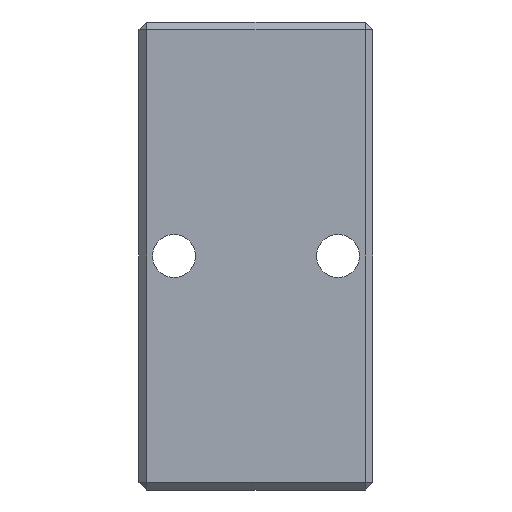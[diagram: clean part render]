
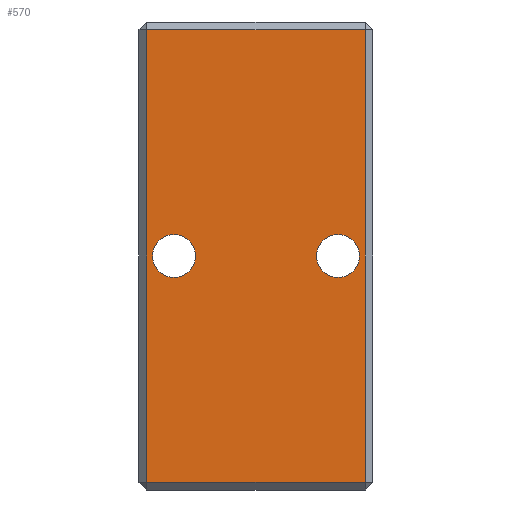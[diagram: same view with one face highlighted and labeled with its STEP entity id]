
A CAD part, left-side view. The second image highlights one B-rep face of the part: STEP entity #570.
In plain terms, the highlighted planar face has unit normal (-1, 0, 0).
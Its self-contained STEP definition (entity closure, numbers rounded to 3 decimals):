
#39=PLANE('',#640);
#47=FACE_BOUND('',#131,.T.);
#48=FACE_BOUND('',#132,.T.);
#89=FACE_OUTER_BOUND('',#130,.T.);
#130=EDGE_LOOP('',(#515,#516,#517,#518));
#131=EDGE_LOOP('',(#519));
#132=EDGE_LOOP('',(#520));
#163=LINE('',#974,#220);
#180=LINE('',#1004,#237);
#190=LINE('',#1024,#247);
#191=LINE('',#1026,#248);
#220=VECTOR('',#725,10.);
#237=VECTOR('',#756,10.);
#247=VECTOR('',#782,10.);
#248=VECTOR('',#785,10.);
#264=CIRCLE('',#641,2.75);
#265=CIRCLE('',#642,2.75);
#294=VERTEX_POINT('',#962);
#297=VERTEX_POINT('',#970);
#300=VERTEX_POINT('',#984);
#303=VERTEX_POINT('',#999);
#306=VERTEX_POINT('',#1031);
#307=VERTEX_POINT('',#1033);
#349=EDGE_CURVE('',#294,#297,#163,.T.);
#366=EDGE_CURVE('',#303,#300,#180,.T.);
#376=EDGE_CURVE('',#297,#303,#190,.T.);
#377=EDGE_CURVE('',#300,#294,#191,.T.);
#379=EDGE_CURVE('',#306,#306,#264,.T.);
#380=EDGE_CURVE('',#307,#307,#265,.T.);
#515=ORIENTED_EDGE('',*,*,#366,.F.);
#516=ORIENTED_EDGE('',*,*,#376,.F.);
#517=ORIENTED_EDGE('',*,*,#349,.F.);
#518=ORIENTED_EDGE('',*,*,#377,.F.);
#519=ORIENTED_EDGE('',*,*,#379,.T.);
#520=ORIENTED_EDGE('',*,*,#380,.T.);
#570=ADVANCED_FACE('',(#89,#47,#48),#39,.T.);
#640=AXIS2_PLACEMENT_3D('',#1030,#791,#792);
#641=AXIS2_PLACEMENT_3D('',#1032,#793,#794);
#642=AXIS2_PLACEMENT_3D('',#1034,#795,#796);
#725=DIRECTION('',(0.,0.,-1.));
#756=DIRECTION('',(0.,0.,1.));
#782=DIRECTION('',(0.,1.,0.));
#785=DIRECTION('',(0.,-1.,0.));
#791=DIRECTION('center_axis',(-1.,0.,0.));
#792=DIRECTION('ref_axis',(0.,-1.,0.));
#793=DIRECTION('center_axis',(1.,0.,0.));
#794=DIRECTION('ref_axis',(0.,0.,-1.));
#795=DIRECTION('center_axis',(1.,0.,0.));
#796=DIRECTION('ref_axis',(0.,0.,-1.));
#962=CARTESIAN_POINT('',(-10.,-14.,29.));
#970=CARTESIAN_POINT('',(-10.,-14.,-29.));
#974=CARTESIAN_POINT('',(-10.,-14.,0.));
#984=CARTESIAN_POINT('',(-10.,14.,29.));
#999=CARTESIAN_POINT('',(-10.,14.,-29.));
#1004=CARTESIAN_POINT('',(-10.,14.,0.));
#1024=CARTESIAN_POINT('',(-10.,7.5,-29.));
#1026=CARTESIAN_POINT('',(-10.,7.5,29.));
#1030=CARTESIAN_POINT('Origin',(-10.,15.,0.));
#1031=CARTESIAN_POINT('',(-10.,10.5,2.75));
#1032=CARTESIAN_POINT('Origin',(-10.,10.5,0.));
#1033=CARTESIAN_POINT('',(-10.,-10.5,2.75));
#1034=CARTESIAN_POINT('Origin',(-10.,-10.5,0.));
